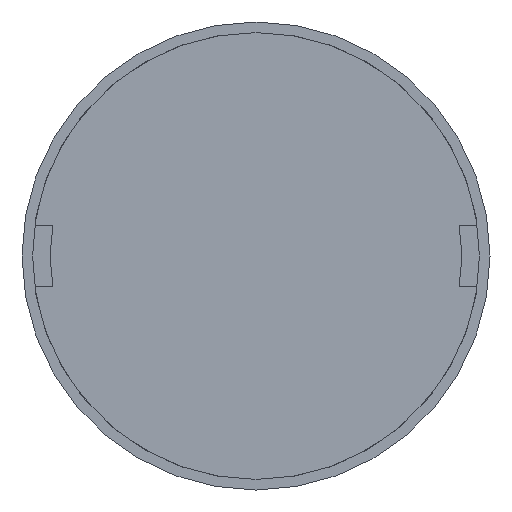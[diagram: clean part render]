
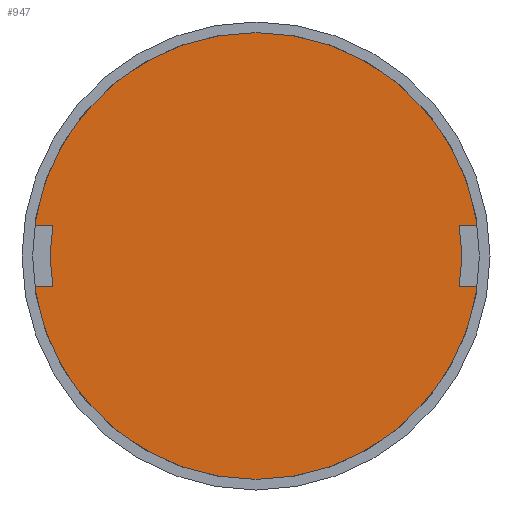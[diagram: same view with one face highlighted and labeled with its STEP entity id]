
A CAD part, front view. The second image highlights one B-rep face of the part: STEP entity #947.
In plain terms, the highlighted planar face has unit normal (0, -1, 0).
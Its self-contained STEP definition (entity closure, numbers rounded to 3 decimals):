
#489=DIRECTION('',(-1.,0.,0.));
#490=VECTOR('',#489,2.424);
#491=CARTESIAN_POINT('',(29.328,0.2,4.));
#492=LINE('',#491,#490);
#493=CARTESIAN_POINT('',(0.,0.2,0.));
#494=DIRECTION('',(0.,-1.,0.));
#495=DIRECTION('',(0.989,0.,-0.147));
#496=AXIS2_PLACEMENT_3D('',#493,#494,#495);
#498=DIRECTION('',(1.,0.,0.));
#499=VECTOR('',#498,2.424);
#500=CARTESIAN_POINT('',(26.904,0.2,-4.));
#501=LINE('',#500,#499);
#502=CARTESIAN_POINT('',(0.,0.2,0.));
#503=DIRECTION('',(0.,-1.,0.));
#504=DIRECTION('',(0.,0.,-1.));
#505=AXIS2_PLACEMENT_3D('',#502,#503,#504);
#507=CARTESIAN_POINT('',(0.,0.2,0.));
#508=DIRECTION('',(0.,-1.,0.));
#509=DIRECTION('',(-0.991,0.,-0.135));
#510=AXIS2_PLACEMENT_3D('',#507,#508,#509);
#512=DIRECTION('',(1.,0.,0.));
#513=VECTOR('',#512,2.424);
#514=CARTESIAN_POINT('',(-29.328,0.2,-4.));
#515=LINE('',#514,#513);
#516=CARTESIAN_POINT('',(0.,0.2,0.));
#517=DIRECTION('',(0.,-1.,0.));
#518=DIRECTION('',(-0.989,0.,0.147));
#519=AXIS2_PLACEMENT_3D('',#516,#517,#518);
#521=DIRECTION('',(-1.,0.,0.));
#522=VECTOR('',#521,2.424);
#523=CARTESIAN_POINT('',(-26.904,0.2,4.));
#524=LINE('',#523,#522);
#525=CARTESIAN_POINT('',(0.,0.2,0.));
#526=DIRECTION('',(0.,-1.,0.));
#527=DIRECTION('',(0.,0.,1.));
#528=AXIS2_PLACEMENT_3D('',#525,#526,#527);
#530=CARTESIAN_POINT('',(0.,0.2,0.));
#531=DIRECTION('',(0.,-1.,0.));
#532=DIRECTION('',(0.991,0.,0.135));
#533=AXIS2_PLACEMENT_3D('',#530,#531,#532);
#625=CARTESIAN_POINT('',(0.,0.2,-29.6));
#626=VERTEX_POINT('',#625);
#627=CARTESIAN_POINT('',(0.,0.2,29.6));
#628=VERTEX_POINT('',#627);
#645=CARTESIAN_POINT('',(29.328,0.2,4.));
#646=CARTESIAN_POINT('',(26.904,0.2,4.));
#647=VERTEX_POINT('',#645);
#648=VERTEX_POINT('',#646);
#649=CARTESIAN_POINT('',(26.904,0.2,-4.));
#650=VERTEX_POINT('',#649);
#651=CARTESIAN_POINT('',(29.328,0.2,-4.));
#652=VERTEX_POINT('',#651);
#653=CARTESIAN_POINT('',(-26.904,0.2,4.));
#654=CARTESIAN_POINT('',(-29.328,0.2,4.));
#655=VERTEX_POINT('',#653);
#656=VERTEX_POINT('',#654);
#657=CARTESIAN_POINT('',(-29.328,0.2,-4.));
#658=CARTESIAN_POINT('',(-26.904,0.2,-4.));
#659=VERTEX_POINT('',#657);
#660=VERTEX_POINT('',#658);
#922=CARTESIAN_POINT('',(0.,0.2,0.));
#923=DIRECTION('',(0.,-1.,0.));
#924=DIRECTION('',(0.,0.,-1.));
#925=AXIS2_PLACEMENT_3D('',#922,#923,#924);
#926=PLANE('',#925);
#928=ORIENTED_EDGE('',*,*,#927,.T.);
#930=ORIENTED_EDGE('',*,*,#929,.F.);
#932=ORIENTED_EDGE('',*,*,#931,.T.);
#933=ORIENTED_EDGE('',*,*,#904,.F.);
#935=ORIENTED_EDGE('',*,*,#934,.F.);
#937=ORIENTED_EDGE('',*,*,#936,.T.);
#939=ORIENTED_EDGE('',*,*,#938,.F.);
#941=ORIENTED_EDGE('',*,*,#940,.T.);
#943=ORIENTED_EDGE('',*,*,#942,.F.);
#944=ORIENTED_EDGE('',*,*,#912,.F.);
#945=EDGE_LOOP('',(#928,#930,#932,#933,#935,#937,#939,#941,#943,#944));
#946=FACE_OUTER_BOUND('',#945,.F.);
#947=ADVANCED_FACE('',(#946),#926,.T.);
#497=CIRCLE('',#496,27.2);
#506=CIRCLE('',#505,29.6);
#511=CIRCLE('',#510,29.6);
#520=CIRCLE('',#519,27.2);
#529=CIRCLE('',#528,29.6);
#534=CIRCLE('',#533,29.6);
#904=EDGE_CURVE('',#626,#652,#506,.T.);
#912=EDGE_CURVE('',#647,#628,#534,.T.);
#927=EDGE_CURVE('',#647,#648,#492,.T.);
#929=EDGE_CURVE('',#650,#648,#497,.T.);
#931=EDGE_CURVE('',#650,#652,#501,.T.);
#934=EDGE_CURVE('',#659,#626,#511,.T.);
#936=EDGE_CURVE('',#659,#660,#515,.T.);
#938=EDGE_CURVE('',#655,#660,#520,.T.);
#940=EDGE_CURVE('',#655,#656,#524,.T.);
#942=EDGE_CURVE('',#628,#656,#529,.T.);
